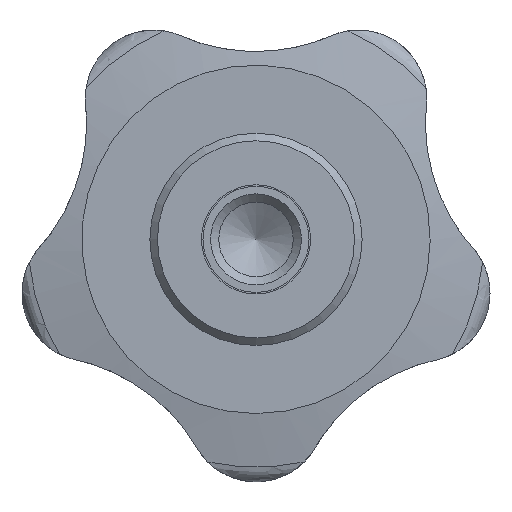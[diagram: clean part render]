
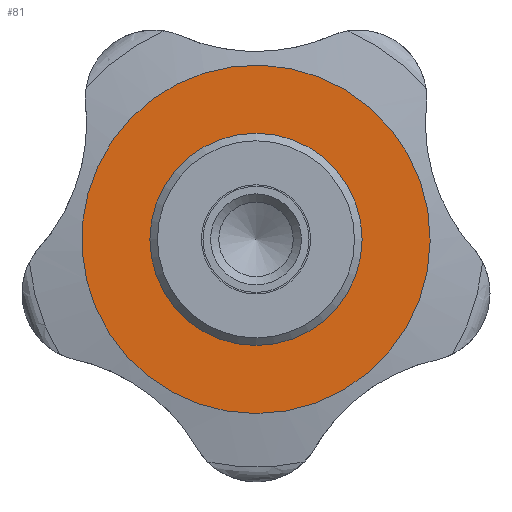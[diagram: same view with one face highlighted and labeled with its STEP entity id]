
A CAD part, front view. The second image highlights one B-rep face of the part: STEP entity #81.
In plain terms, the highlighted planar face has unit normal (0, -1, 0).
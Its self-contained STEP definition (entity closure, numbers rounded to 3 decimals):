
#81 = ADVANCED_FACE( '', ( #125, #126 ), #127, .F. );
#125 = FACE_BOUND( '', #241, .T. );
#126 = FACE_OUTER_BOUND( '', #242, .T. );
#127 = PLANE( '', #243 );
#241 = EDGE_LOOP( '', ( #357 ) );
#242 = EDGE_LOOP( '', ( #358 ) );
#243 = AXIS2_PLACEMENT_3D( '', #359, #360, #361 );
#357 = ORIENTED_EDGE( '', *, *, #596, .F. );
#358 = ORIENTED_EDGE( '', *, *, #597, .T. );
#359 = CARTESIAN_POINT( '', ( 11.49, 12.5, 0. ) );
#360 = DIRECTION( '', ( 0., 1., 0. ) );
#361 = DIRECTION( '', ( 0., 0., 1. ) );
#596 = EDGE_CURVE( '', #706, #706, #707, .T. );
#597 = EDGE_CURVE( '', #708, #708, #709, .T. );
#706 = VERTEX_POINT( '', #1009 );
#707 = CIRCLE( '', #1010, 7. );
#708 = VERTEX_POINT( '', #1011 );
#709 = CIRCLE( '', #1012, 11.49 );
#1009 = CARTESIAN_POINT( '', ( 0., 12.5, -7. ) );
#1010 = AXIS2_PLACEMENT_3D( '', #1430, #1431, #1432 );
#1011 = CARTESIAN_POINT( '', ( 0., 12.5, -11.49 ) );
#1012 = AXIS2_PLACEMENT_3D( '', #1433, #1434, #1435 );
#1430 = CARTESIAN_POINT( '', ( 0., 12.5, 0. ) );
#1431 = DIRECTION( '', ( 0., -1., 0. ) );
#1432 = DIRECTION( '', ( 0., 0., -1. ) );
#1433 = CARTESIAN_POINT( '', ( 0., 12.5, 0. ) );
#1434 = DIRECTION( '', ( 0., -1., 0. ) );
#1435 = DIRECTION( '', ( 0., 0., -1. ) );
